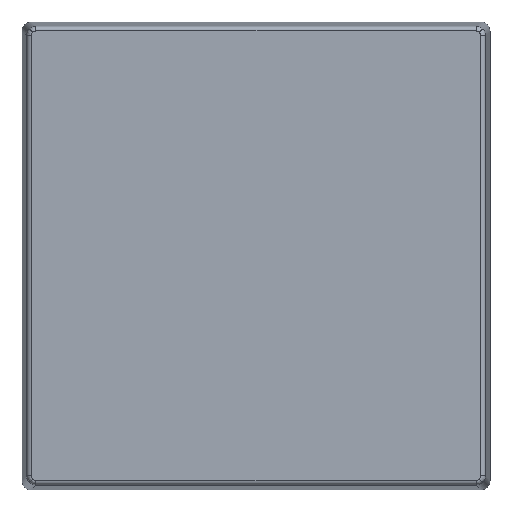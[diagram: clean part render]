
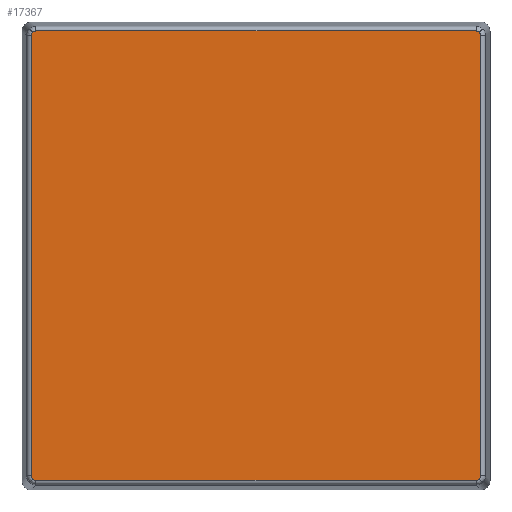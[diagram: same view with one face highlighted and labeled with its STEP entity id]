
A CAD part, top view. The second image highlights one B-rep face of the part: STEP entity #17367.
In plain terms, the highlighted planar face has unit normal (0, 0, 1) as drawn and (0, -1, 0) by its records, which use the part's own axes.
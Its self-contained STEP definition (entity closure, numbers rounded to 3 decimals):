
#424=PLANE('',#18477);
#1115=B_SPLINE_CURVE_WITH_KNOTS('',3,(#23629,#23630,#23631,#23632,#23633,
#23634,#23635),.UNSPECIFIED.,.F.,.F.,(4,3,4),(0.,0.393,
0.785),.UNSPECIFIED.);
#1117=B_SPLINE_CURVE_WITH_KNOTS('',3,(#23667,#23668,#23669,#23670,#23671,
#23672,#23673),.UNSPECIFIED.,.F.,.F.,(4,3,4),(0.,0.393,0.785),
 .UNSPECIFIED.);
#1119=B_SPLINE_CURVE_WITH_KNOTS('',3,(#23705,#23706,#23707,#23708,#23709,
#23710,#23711),.UNSPECIFIED.,.F.,.F.,(4,3,4),(0.,0.393,0.785),
 .UNSPECIFIED.);
#1121=B_SPLINE_CURVE_WITH_KNOTS('',3,(#23743,#23744,#23745,#23746,#23747,
#23748,#23749),.UNSPECIFIED.,.F.,.F.,(4,3,4),(0.,0.393,
0.785),.UNSPECIFIED.);
#1263=B_SPLINE_CURVE_WITH_KNOTS('',3,(#26037,#26038,#26039,#26040,#26041,
#26042,#26043),.UNSPECIFIED.,.F.,.F.,(4,3,4),(5.498,5.891,
6.283),.UNSPECIFIED.);
#1264=B_SPLINE_CURVE_WITH_KNOTS('',3,(#26046,#26047,#26048,#26049,#26050,
#26051,#26052),.UNSPECIFIED.,.F.,.F.,(4,3,4),(5.498,5.891,
6.283),.UNSPECIFIED.);
#1265=B_SPLINE_CURVE_WITH_KNOTS('',3,(#26055,#26056,#26057,#26058,#26059,
#26060,#26061),.UNSPECIFIED.,.F.,.F.,(4,3,4),(5.498,5.891,
6.283),.UNSPECIFIED.);
#1266=B_SPLINE_CURVE_WITH_KNOTS('',3,(#26064,#26065,#26066,#26067,#26068,
#26069,#26070),.UNSPECIFIED.,.F.,.F.,(4,3,4),(5.498,5.891,
6.283),.UNSPECIFIED.);
#2062=LINE('',#26036,#3249);
#2063=LINE('',#26045,#3250);
#2064=LINE('',#26054,#3251);
#2065=LINE('',#26063,#3252);
#3249=VECTOR('',#19956,235.251);
#3250=VECTOR('',#19957,235.251);
#3251=VECTOR('',#19958,235.251);
#3252=VECTOR('',#19959,235.251);
#4474=FACE_OUTER_BOUND('',#5562,.T.);
#5562=EDGE_LOOP('',(#12120,#12121,#12122,#12123,#12124,#12125,#12126,#12127,
#12128,#12129,#12130,#12131));
#7357=VERTEX_POINT('',#23627);
#7358=VERTEX_POINT('',#23628);
#7361=VERTEX_POINT('',#23665);
#7362=VERTEX_POINT('',#23666);
#7365=VERTEX_POINT('',#23703);
#7366=VERTEX_POINT('',#23704);
#7369=VERTEX_POINT('',#23741);
#7370=VERTEX_POINT('',#23742);
#7612=VERTEX_POINT('',#26035);
#7613=VERTEX_POINT('',#26044);
#7614=VERTEX_POINT('',#26053);
#7615=VERTEX_POINT('',#26062);
#9137=EDGE_CURVE('',#7357,#7358,#1115,.T.);
#9141=EDGE_CURVE('',#7361,#7362,#1117,.T.);
#9145=EDGE_CURVE('',#7365,#7366,#1119,.T.);
#9149=EDGE_CURVE('',#7369,#7370,#1121,.T.);
#9396=EDGE_CURVE('',#7366,#7612,#2062,.T.);
#9397=EDGE_CURVE('',#7612,#7357,#1263,.T.);
#9398=EDGE_CURVE('',#7358,#7613,#2063,.T.);
#9399=EDGE_CURVE('',#7613,#7361,#1264,.T.);
#9400=EDGE_CURVE('',#7362,#7614,#2064,.T.);
#9401=EDGE_CURVE('',#7614,#7369,#1265,.T.);
#9402=EDGE_CURVE('',#7370,#7615,#2065,.T.);
#9403=EDGE_CURVE('',#7615,#7365,#1266,.T.);
#12120=ORIENTED_EDGE('',*,*,#9396,.T.);
#12121=ORIENTED_EDGE('',*,*,#9397,.T.);
#12122=ORIENTED_EDGE('',*,*,#9137,.T.);
#12123=ORIENTED_EDGE('',*,*,#9398,.T.);
#12124=ORIENTED_EDGE('',*,*,#9399,.T.);
#12125=ORIENTED_EDGE('',*,*,#9141,.T.);
#12126=ORIENTED_EDGE('',*,*,#9400,.T.);
#12127=ORIENTED_EDGE('',*,*,#9401,.T.);
#12128=ORIENTED_EDGE('',*,*,#9149,.T.);
#12129=ORIENTED_EDGE('',*,*,#9402,.T.);
#12130=ORIENTED_EDGE('',*,*,#9403,.T.);
#12131=ORIENTED_EDGE('',*,*,#9145,.T.);
#17367=ADVANCED_FACE('',(#4474),#424,.F.);
#18477=AXIS2_PLACEMENT_3D('',#26034,#19954,#19955);
#19954=DIRECTION('center_axis',(0.,1.,0.));
#19955=DIRECTION('ref_axis',(0.,0.,1.));
#19956=DIRECTION('',(-1.,0.,0.));
#19957=DIRECTION('',(0.,0.,-1.));
#19958=DIRECTION('',(1.,0.,0.));
#19959=DIRECTION('',(0.,0.,1.));
#23627=CARTESIAN_POINT('',(-119.393,-97.,119.393));
#23628=CARTESIAN_POINT('',(-120.125,-97.,117.625));
#23629=CARTESIAN_POINT('Ctrl Pts',(-119.393,-97.,119.393));
#23630=CARTESIAN_POINT('Ctrl Pts',(-119.624,-97.,119.161));
#23631=CARTESIAN_POINT('Ctrl Pts',(-119.809,-97.,118.884));
#23632=CARTESIAN_POINT('Ctrl Pts',(-119.934,-97.,118.582));
#23633=CARTESIAN_POINT('Ctrl Pts',(-120.06,-97.,118.28));
#23634=CARTESIAN_POINT('Ctrl Pts',(-120.125,-97.,117.953));
#23635=CARTESIAN_POINT('Ctrl Pts',(-120.125,-97.,117.625));
#23665=CARTESIAN_POINT('',(-119.393,-97.,-119.393));
#23666=CARTESIAN_POINT('',(-117.625,-97.,-120.125));
#23667=CARTESIAN_POINT('Ctrl Pts',(-119.393,-97.,
-119.393));
#23668=CARTESIAN_POINT('Ctrl Pts',(-119.161,-97.,
-119.624));
#23669=CARTESIAN_POINT('Ctrl Pts',(-118.884,-97.,-119.809));
#23670=CARTESIAN_POINT('Ctrl Pts',(-118.582,-97.,-119.934));
#23671=CARTESIAN_POINT('Ctrl Pts',(-118.28,-97.,-120.06));
#23672=CARTESIAN_POINT('Ctrl Pts',(-117.953,-97.,
-120.125));
#23673=CARTESIAN_POINT('Ctrl Pts',(-117.625,-97.,
-120.125));
#23703=CARTESIAN_POINT('',(119.393,-97.,119.393));
#23704=CARTESIAN_POINT('',(117.625,-97.,120.125));
#23705=CARTESIAN_POINT('Ctrl Pts',(119.393,-97.,119.393));
#23706=CARTESIAN_POINT('Ctrl Pts',(119.161,-97.,119.624));
#23707=CARTESIAN_POINT('Ctrl Pts',(118.884,-97.,119.809));
#23708=CARTESIAN_POINT('Ctrl Pts',(118.582,-97.,119.934));
#23709=CARTESIAN_POINT('Ctrl Pts',(118.28,-97.,120.06));
#23710=CARTESIAN_POINT('Ctrl Pts',(117.953,-97.,120.125));
#23711=CARTESIAN_POINT('Ctrl Pts',(117.625,-97.,120.125));
#23741=CARTESIAN_POINT('',(119.393,-97.,-119.393));
#23742=CARTESIAN_POINT('',(120.125,-97.,-117.625));
#23743=CARTESIAN_POINT('Ctrl Pts',(119.393,-97.,-119.393));
#23744=CARTESIAN_POINT('Ctrl Pts',(119.624,-97.,-119.161));
#23745=CARTESIAN_POINT('Ctrl Pts',(119.809,-97.,-118.884));
#23746=CARTESIAN_POINT('Ctrl Pts',(119.934,-97.,-118.582));
#23747=CARTESIAN_POINT('Ctrl Pts',(120.06,-97.,-118.28));
#23748=CARTESIAN_POINT('Ctrl Pts',(120.125,-97.,-117.953));
#23749=CARTESIAN_POINT('Ctrl Pts',(120.125,-97.,-117.625));
#26034=CARTESIAN_POINT('Origin',(-125.1,-97.,125.1));
#26035=CARTESIAN_POINT('',(-117.625,-97.,120.125));
#26036=CARTESIAN_POINT('',(117.625,-97.,120.125));
#26037=CARTESIAN_POINT('Ctrl Pts',(-117.625,-97.,120.125));
#26038=CARTESIAN_POINT('Ctrl Pts',(-117.953,-97.,120.125));
#26039=CARTESIAN_POINT('Ctrl Pts',(-118.28,-97.,120.06));
#26040=CARTESIAN_POINT('Ctrl Pts',(-118.582,-97.,119.934));
#26041=CARTESIAN_POINT('Ctrl Pts',(-118.884,-97.,119.809));
#26042=CARTESIAN_POINT('Ctrl Pts',(-119.161,-97.,119.624));
#26043=CARTESIAN_POINT('Ctrl Pts',(-119.393,-97.,119.393));
#26044=CARTESIAN_POINT('',(-120.125,-97.,-117.625));
#26045=CARTESIAN_POINT('',(-120.125,-97.,117.625));
#26046=CARTESIAN_POINT('Ctrl Pts',(-120.125,-97.,-117.625));
#26047=CARTESIAN_POINT('Ctrl Pts',(-120.125,-97.,-117.953));
#26048=CARTESIAN_POINT('Ctrl Pts',(-120.06,-97.,-118.28));
#26049=CARTESIAN_POINT('Ctrl Pts',(-119.934,-97.,-118.582));
#26050=CARTESIAN_POINT('Ctrl Pts',(-119.809,-97.,-118.884));
#26051=CARTESIAN_POINT('Ctrl Pts',(-119.624,-97.,-119.161));
#26052=CARTESIAN_POINT('Ctrl Pts',(-119.393,-97.,-119.393));
#26053=CARTESIAN_POINT('',(117.625,-97.,-120.125));
#26054=CARTESIAN_POINT('',(-117.625,-97.,-120.125));
#26055=CARTESIAN_POINT('Ctrl Pts',(117.625,-97.,-120.125));
#26056=CARTESIAN_POINT('Ctrl Pts',(117.953,-97.,-120.125));
#26057=CARTESIAN_POINT('Ctrl Pts',(118.28,-97.,-120.06));
#26058=CARTESIAN_POINT('Ctrl Pts',(118.582,-97.,-119.934));
#26059=CARTESIAN_POINT('Ctrl Pts',(118.884,-97.,-119.809));
#26060=CARTESIAN_POINT('Ctrl Pts',(119.161,-97.,-119.624));
#26061=CARTESIAN_POINT('Ctrl Pts',(119.393,-97.,-119.393));
#26062=CARTESIAN_POINT('',(120.125,-97.,117.625));
#26063=CARTESIAN_POINT('',(120.125,-97.,-117.625));
#26064=CARTESIAN_POINT('Ctrl Pts',(120.125,-97.,117.625));
#26065=CARTESIAN_POINT('Ctrl Pts',(120.125,-97.,117.953));
#26066=CARTESIAN_POINT('Ctrl Pts',(120.06,-97.,118.28));
#26067=CARTESIAN_POINT('Ctrl Pts',(119.934,-97.,118.582));
#26068=CARTESIAN_POINT('Ctrl Pts',(119.809,-97.,118.884));
#26069=CARTESIAN_POINT('Ctrl Pts',(119.624,-97.,119.161));
#26070=CARTESIAN_POINT('Ctrl Pts',(119.393,-97.,119.393));
